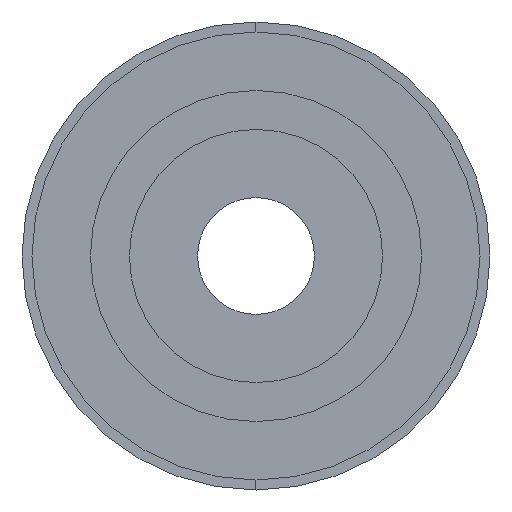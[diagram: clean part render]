
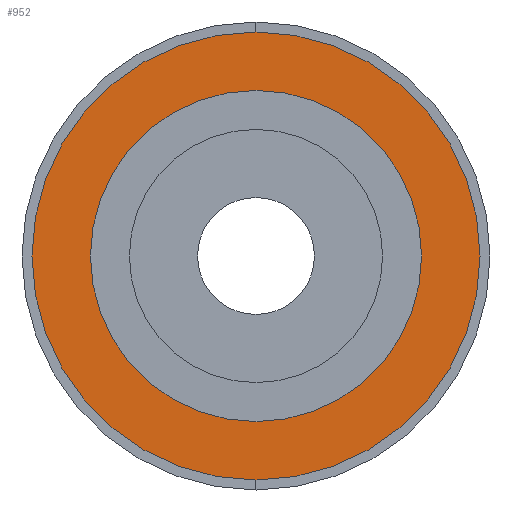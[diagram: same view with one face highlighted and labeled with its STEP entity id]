
A CAD part, left-side view. The second image highlights one B-rep face of the part: STEP entity #952.
In plain terms, the highlighted planar face has unit normal (-1, 0, 0).
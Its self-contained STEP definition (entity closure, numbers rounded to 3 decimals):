
#125 = CIRCLE ( 'NONE', #532, 8.5 ) ;
#142 = ORIENTED_EDGE ( 'NONE', *, *, #607, .T. ) ;
#147 = DIRECTION ( 'NONE',  ( -1., 0., 0. ) ) ;
#165 = ORIENTED_EDGE ( 'NONE', *, *, #347, .T. ) ;
#209 = VERTEX_POINT ( 'NONE', #632 ) ;
#227 = CARTESIAN_POINT ( 'NONE',  ( 4., 0., 8.5 ) ) ;
#233 = CARTESIAN_POINT ( 'NONE',  ( 4., 0., 11.5 ) ) ;
#235 = DIRECTION ( 'NONE',  ( 0., 0., 1. ) ) ;
#247 = PLANE ( 'NONE',  #1035 ) ;
#258 = ORIENTED_EDGE ( 'NONE', *, *, #699, .F. ) ;
#319 = DIRECTION ( 'NONE',  ( -1., 0., 0. ) ) ;
#325 = DIRECTION ( 'NONE',  ( -1., 0., 0. ) ) ;
#332 = CARTESIAN_POINT ( 'NONE',  ( 4., 0., 0. ) ) ;
#347 = EDGE_CURVE ( 'NONE', #209, #374, #827, .T. ) ;
#350 = AXIS2_PLACEMENT_3D ( 'NONE', #580, #319, #420 ) ;
#374 = VERTEX_POINT ( 'NONE', #233 ) ;
#420 = DIRECTION ( 'NONE',  ( 0., 0., 1. ) ) ;
#427 = EDGE_LOOP ( 'NONE', ( #258, #715 ) ) ;
#431 = CARTESIAN_POINT ( 'NONE',  ( 4., 8.5, 0. ) ) ;
#432 = DIRECTION ( 'NONE',  ( 0., 0., 1. ) ) ;
#449 = AXIS2_PLACEMENT_3D ( 'NONE', #670, #147, #754 ) ;
#465 = VERTEX_POINT ( 'NONE', #227 ) ;
#482 = DIRECTION ( 'NONE',  ( -1., 0., 0. ) ) ;
#486 = CARTESIAN_POINT ( 'NONE',  ( 4., 0., 0. ) ) ;
#515 = DIRECTION ( 'NONE',  ( 0., 0., -1. ) ) ;
#532 = AXIS2_PLACEMENT_3D ( 'NONE', #486, #482, #432 ) ;
#580 = CARTESIAN_POINT ( 'NONE',  ( 4., 0., 0. ) ) ;
#607 = EDGE_CURVE ( 'NONE', #374, #209, #1038, .T. ) ;
#631 = EDGE_CURVE ( 'NONE', #782, #465, #125, .T. ) ;
#632 = CARTESIAN_POINT ( 'NONE',  ( 4., 0., -11.5 ) ) ;
#670 = CARTESIAN_POINT ( 'NONE',  ( 4., 0., 0. ) ) ;
#699 = EDGE_CURVE ( 'NONE', #465, #782, #980, .T. ) ;
#715 = ORIENTED_EDGE ( 'NONE', *, *, #631, .F. ) ;
#754 = DIRECTION ( 'NONE',  ( 0., 0., 1. ) ) ;
#763 = FACE_OUTER_BOUND ( 'NONE', #967, .T. ) ;
#782 = VERTEX_POINT ( 'NONE', #1079 ) ;
#804 = AXIS2_PLACEMENT_3D ( 'NONE', #332, #325, #235 ) ;
#827 = CIRCLE ( 'NONE', #449, 11.5 ) ;
#952 = ADVANCED_FACE ( 'NONE', ( #966, #763 ), #247, .F. ) ;
#966 = FACE_BOUND ( 'NONE', #427, .T. ) ;
#967 = EDGE_LOOP ( 'NONE', ( #142, #165 ) ) ;
#980 = CIRCLE ( 'NONE', #804, 8.5 ) ;
#1015 = DIRECTION ( 'NONE',  ( 1., 0., 0. ) ) ;
#1035 = AXIS2_PLACEMENT_3D ( 'NONE', #431, #1015, #515 ) ;
#1038 = CIRCLE ( 'NONE', #350, 11.5 ) ;
#1079 = CARTESIAN_POINT ( 'NONE',  ( 4., 0., -8.5 ) ) ;
